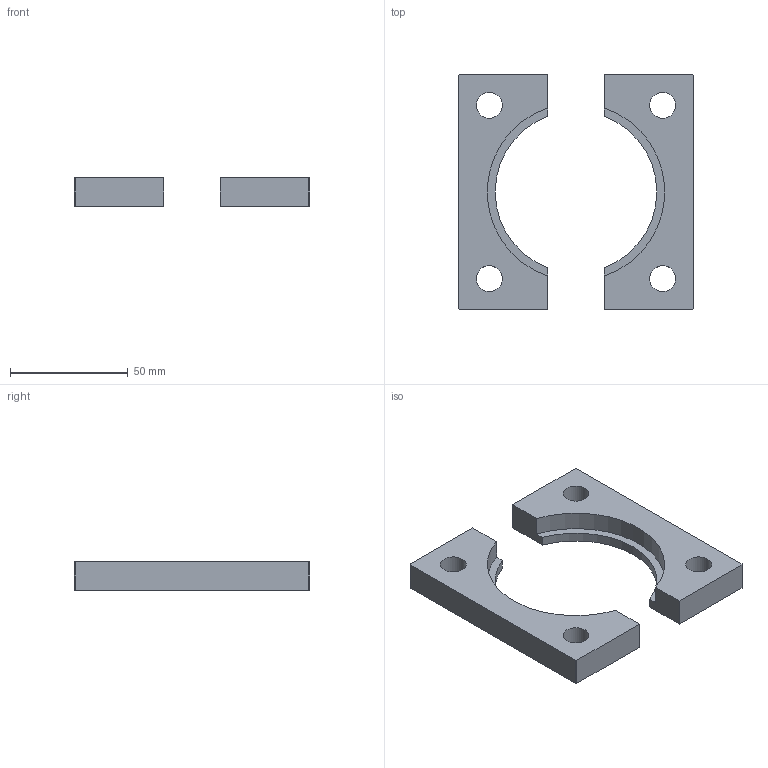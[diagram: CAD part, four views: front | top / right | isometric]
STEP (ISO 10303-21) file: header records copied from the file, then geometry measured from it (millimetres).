
FILE_DESCRIPTION(/* description */ (''),/* implementation_level */ '2;1');
FILE_NAME(/* name */ 'C:\Users\Jefferson\Desktop\Biblioteca Pro Nitro 2024\Flanges\PNB-55-XXX\PNB-55-075.stp',/* time_stamp */ '2024-01-26T15:32:34-03:00',/* author */ ('Jefferson'),/* organization */ (''),/* preprocessor_version */ 'ST-DEVELOPER v18.1',/* originating_system */ 'Autodesk Inventor 2021',/* authorisation */ '');
FILE_SCHEMA (('AUTOMOTIVE_DESIGN { 1 0 10303 214 3 1 1 }'));
Length unit declared in the file: millimetre
Products named in the file (1): PNB-55-075
Bounding box: 100 x 100 x 12 mm (x, y, z)
Volume: 56981.8 mm3; surface area: 19086.5 mm2
Topology: 2 solids, 2 shells, 179 faces, 483 edges, 322 vertices
Faces by surface type: plane 98, bspline 73, cylinder 8
Full cylindrical faces by diameter (mm): 11 x4
Entity records: 6007 total; most frequent: CARTESIAN_POINT 1934, ORIENTED_EDGE 966, DIRECTION 567, EDGE_CURVE 483, VERTEX_POINT 322, LINE 321, VECTOR 321, EDGE_LOOP 201
